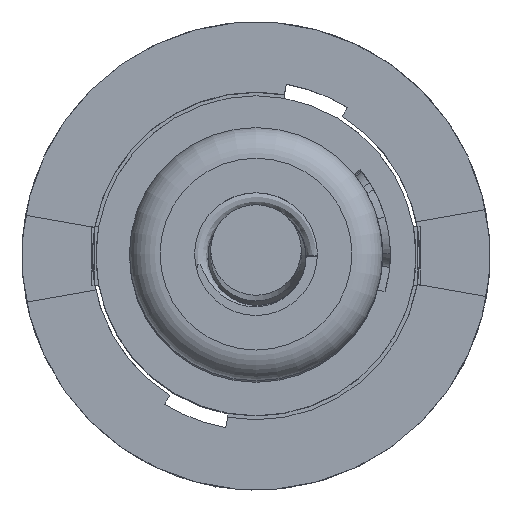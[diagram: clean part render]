
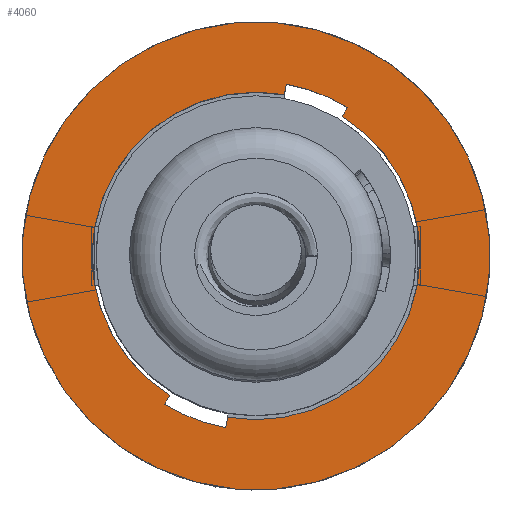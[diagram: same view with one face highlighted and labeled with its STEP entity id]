
A CAD part, top view. The second image highlights one B-rep face of the part: STEP entity #4060.
In plain terms, the highlighted planar face has unit normal (0, 0, 1) as drawn and (0, 1, 0) by its records, which use the part's own axes.
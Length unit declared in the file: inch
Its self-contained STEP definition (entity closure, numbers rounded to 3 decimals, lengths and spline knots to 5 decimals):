
#216=PLANE('',#4426);
#261=FACE_BOUND('',#668,.T.);
#435=FACE_OUTER_BOUND('',#667,.T.);
#667=EDGE_LOOP('',(#3595));
#668=EDGE_LOOP('',(#3596,#3597,#3598,#3599,#3600,#3601,#3602,#3603));
#825=CIRCLE('',#4414,0.305);
#831=CIRCLE('',#4423,0.22715);
#833=CIRCLE('',#4427,0.2135);
#834=CIRCLE('',#4428,0.22715);
#835=CIRCLE('',#4429,0.2135);
#1251=LINE('',#8678,#1558);
#1254=LINE('',#8684,#1561);
#1255=LINE('',#8688,#1562);
#1256=LINE('',#8692,#1563);
#1558=VECTOR('',#5173,0.3937);
#1561=VECTOR('',#5178,0.3937);
#1562=VECTOR('',#5181,0.3937);
#1563=VECTOR('',#5184,0.3937);
#1952=VERTEX_POINT('',#8647);
#1959=VERTEX_POINT('',#8668);
#1960=VERTEX_POINT('',#8669);
#1963=VERTEX_POINT('',#8677);
#1965=VERTEX_POINT('',#8683);
#1966=VERTEX_POINT('',#8685);
#1967=VERTEX_POINT('',#8687);
#1968=VERTEX_POINT('',#8689);
#1969=VERTEX_POINT('',#8691);
#2506=EDGE_CURVE('',#1952,#1952,#825,.T.);
#2516=EDGE_CURVE('',#1959,#1960,#831,.T.);
#2520=EDGE_CURVE('',#1960,#1963,#1251,.T.);
#2523=EDGE_CURVE('',#1965,#1959,#1254,.T.);
#2524=EDGE_CURVE('',#1963,#1966,#833,.T.);
#2525=EDGE_CURVE('',#1966,#1967,#1255,.T.);
#2526=EDGE_CURVE('',#1967,#1968,#834,.T.);
#2527=EDGE_CURVE('',#1968,#1969,#1256,.T.);
#2528=EDGE_CURVE('',#1969,#1965,#835,.T.);
#3595=ORIENTED_EDGE('',*,*,#2506,.F.);
#3596=ORIENTED_EDGE('',*,*,#2523,.T.);
#3597=ORIENTED_EDGE('',*,*,#2516,.T.);
#3598=ORIENTED_EDGE('',*,*,#2520,.T.);
#3599=ORIENTED_EDGE('',*,*,#2524,.T.);
#3600=ORIENTED_EDGE('',*,*,#2525,.T.);
#3601=ORIENTED_EDGE('',*,*,#2526,.T.);
#3602=ORIENTED_EDGE('',*,*,#2527,.T.);
#3603=ORIENTED_EDGE('',*,*,#2528,.T.);
#4060=ADVANCED_FACE('',(#435,#261),#216,.T.);
#4414=AXIS2_PLACEMENT_3D('',#8649,#5143,#5144);
#4423=AXIS2_PLACEMENT_3D('',#8670,#5165,#5166);
#4426=AXIS2_PLACEMENT_3D('',#8682,#5176,#5177);
#4427=AXIS2_PLACEMENT_3D('',#8686,#5179,#5180);
#4428=AXIS2_PLACEMENT_3D('',#8690,#5182,#5183);
#4429=AXIS2_PLACEMENT_3D('',#8693,#5185,#5186);
#5143=DIRECTION('center_axis',(0.,-1.,0.));
#5144=DIRECTION('ref_axis',(1.,0.,0.));
#5165=DIRECTION('center_axis',(0.,-1.,0.));
#5166=DIRECTION('ref_axis',(0.707,0.,-0.707));
#5173=DIRECTION('',(-0.914,0.,0.407));
#5176=DIRECTION('center_axis',(0.,1.,0.));
#5177=DIRECTION('ref_axis',(0.,0.,1.));
#5178=DIRECTION('',(0.707,0.,-0.707));
#5179=DIRECTION('center_axis',(0.,-1.,0.));
#5180=DIRECTION('ref_axis',(1.,0.,0.));
#5181=DIRECTION('',(-0.707,0.,0.707));
#5182=DIRECTION('center_axis',(0.,-1.,0.));
#5183=DIRECTION('ref_axis',(-0.707,0.,0.707));
#5184=DIRECTION('',(0.914,0.,-0.407));
#5185=DIRECTION('center_axis',(0.,-1.,0.));
#5186=DIRECTION('ref_axis',(1.,0.,0.));
#8647=CARTESIAN_POINT('',(-0.305,0.,0.));
#8649=CARTESIAN_POINT('Origin',(0.,0.,0.));
#8668=CARTESIAN_POINT('',(0.16062,0.,-0.16062));
#8669=CARTESIAN_POINT('',(0.20859,0.,-0.08995));
#8670=CARTESIAN_POINT('Origin',(0.,0.,0.));
#8677=CARTESIAN_POINT('',(0.19611,0.,-0.08439));
#8678=CARTESIAN_POINT('',(0.0986,0.,-0.04098));
#8682=CARTESIAN_POINT('Origin',(0.,0.,0.));
#8683=CARTESIAN_POINT('',(0.15097,0.,-0.15097));
#8684=CARTESIAN_POINT('',(0.08031,0.,-0.08031));
#8685=CARTESIAN_POINT('',(-0.15097,0.,0.15097));
#8686=CARTESIAN_POINT('Origin',(0.,0.,0.));
#8687=CARTESIAN_POINT('',(-0.16062,0.,0.16062));
#8688=CARTESIAN_POINT('',(-0.08031,0.,0.08031));
#8689=CARTESIAN_POINT('',(-0.20859,0.,0.08995));
#8690=CARTESIAN_POINT('Origin',(0.,0.,0.));
#8691=CARTESIAN_POINT('',(-0.19611,0.,0.08439));
#8692=CARTESIAN_POINT('',(-0.0986,0.,0.04098));
#8693=CARTESIAN_POINT('Origin',(0.,0.,0.));
